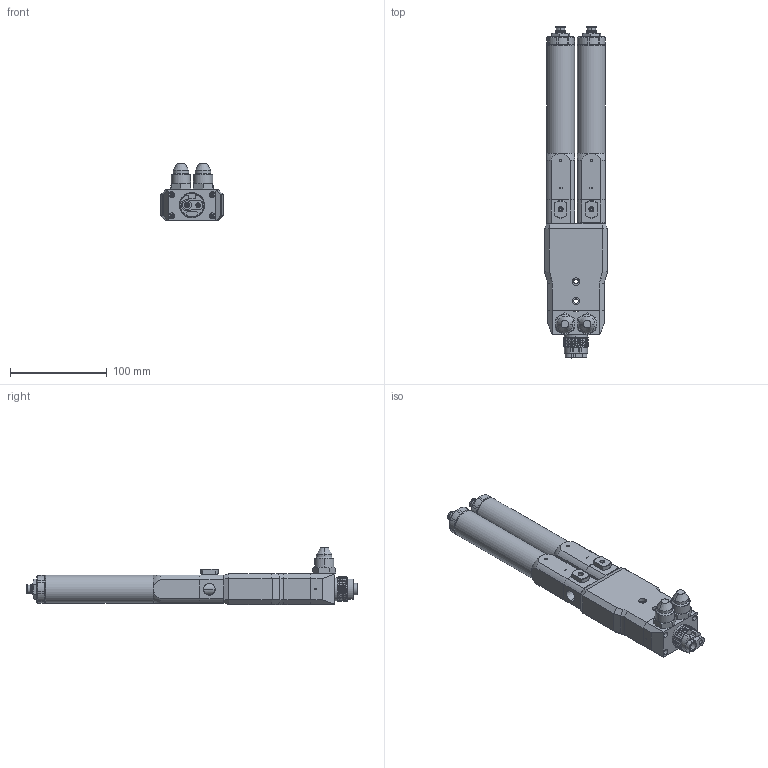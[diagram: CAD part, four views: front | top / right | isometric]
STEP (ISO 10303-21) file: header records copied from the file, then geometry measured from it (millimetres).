
FILE_DESCRIPTION (( 'STEP AP214' ), '1' );
FILE_NAME ('PDP-1000-150FB.STEP', '2024-10-11T12:18:42', ( '' ), ( '' ), 'SwSTEP 2.0', 'SolidWorks 2024', '' );
FILE_SCHEMA (( 'AUTOMOTIVE_DESIGN' ));
Length unit declared in the file: millimetre
Products named in the file (1): PDP-1000-150FB
Bounding box: 65 x 344 x 59.3 mm (x, y, z)
Volume: 507430 mm3; surface area: 118673.5 mm2
Topology: 12 solids, 12 shells, 1264 faces, 3130 edges, 1977 vertices
Faces by surface type: plane 470, cylinder 447, cone 295, bspline 32, torus 12, sphere 8
Full cylindrical faces by diameter (mm): 29 x2
Entity records: 62790 total; most frequent: CARTESIAN_POINT 33342, ORIENTED_EDGE 6204, DIRECTION 6006, EDGE_CURVE 3102, AXIS2_PLACEMENT_3D 2346, VERTEX_POINT 1977, EDGE_LOOP 1417, LINE 1314
